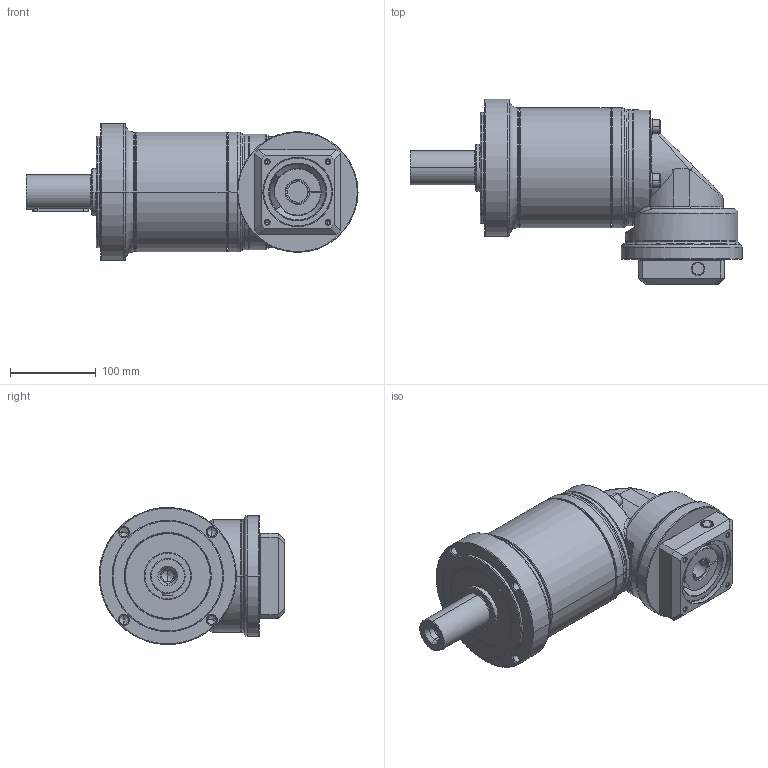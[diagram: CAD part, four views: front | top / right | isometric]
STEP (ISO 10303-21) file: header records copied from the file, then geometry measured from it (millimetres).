
FILE_DESCRIPTION((''),'2;1');
FILE_NAME('PG2R-160_2ST_24-P0411500101_ASM','2016-04-26T',('d01943'),(''),'PRO/ENGINEER BY PARAMETRIC TECHNOLOGY CORPORATION, 2008410','PRO/ENGINEER BY PARAMETRIC TECHNOLOGY CORPORATION, 2008410','');
FILE_SCHEMA(('CONFIG_CONTROL_DESIGN'));
Length unit declared in the file: millimetre
Products named in the file (12): P1325510001; P0251500001; P0350501103; P1349500001; P1017500001; P0713501001; P0503500008; P1350500101; P0411500101; P1702500001; 2111BA10040; PG2R-160_2ST_24-P0411500101_ASM
Assembly tree (14 placements, depth 2):
  PG2R-160_2ST_24-P0411500101_ASM
    P1325510001
    P0251500001
    P0350501103
    P1349500001
    P1017500001
    P0713501001
    P0503500008
    P1350500101
    P0411500101
    P1702500001
    2111BA10040  x4
Bounding box: 387.5 x 216.5 x 160 mm (x, y, z)
Volume: 2883864.7 mm3; surface area: 479230.7 mm2
Topology: 14 solids, 15 shells, 715 faces, 1571 edges, 910 vertices
Faces by surface type: cylinder 221, cone 198, plane 156, torus 108, bspline 32
Entity records: 22750 total; most frequent: CARTESIAN_POINT 8941, DIRECTION 3071, ORIENTED_EDGE 2666, EDGE_CURVE 1333, AXIS2_PLACEMENT_3D 1301, VERTEX_POINT 790, EDGE_LOOP 693, CIRCLE 691
